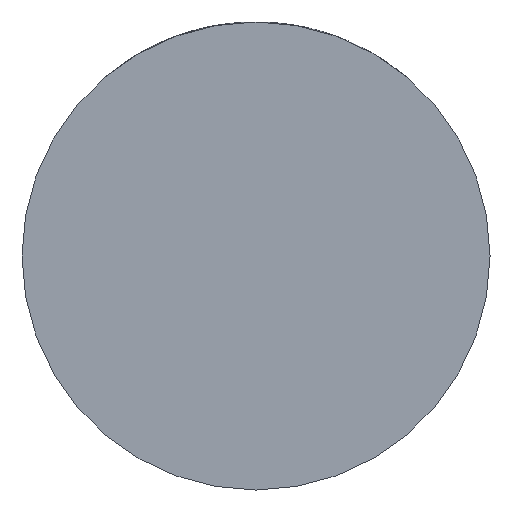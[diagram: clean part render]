
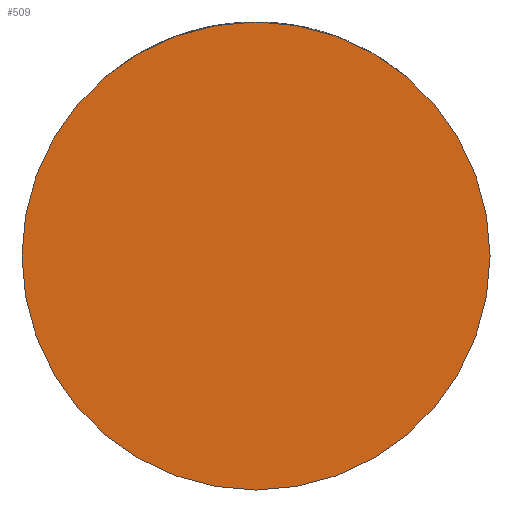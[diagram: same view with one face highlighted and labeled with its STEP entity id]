
A CAD part, front view. The second image highlights one B-rep face of the part: STEP entity #509.
In plain terms, the highlighted planar face has unit normal (0, -1, 0).
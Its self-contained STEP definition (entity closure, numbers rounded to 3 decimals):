
#69 = CARTESIAN_POINT ( 'NONE',  ( 0., -28., 0. ) ) ;
#413 = DIRECTION ( 'NONE',  ( 0., -1., 0. ) ) ;
#509 = ADVANCED_FACE ( 'NONE', ( #4465 ), #3724, .T. ) ;
#732 = CIRCLE ( 'NONE', #2243, 32. ) ;
#1179 = VERTEX_POINT ( 'NONE', #1838 ) ;
#1330 = DIRECTION ( 'NONE',  ( 1., 0., 0. ) ) ;
#1565 = CARTESIAN_POINT ( 'NONE',  ( 0., -28., 0. ) ) ;
#1625 = EDGE_CURVE ( 'NONE', #1179, #2361, #732, .T. ) ;
#1677 = ORIENTED_EDGE ( 'NONE', *, *, #1625, .T. ) ;
#1791 = DIRECTION ( 'NONE',  ( 1., 0., 0. ) ) ;
#1838 = CARTESIAN_POINT ( 'NONE',  ( -32., -28., 0. ) ) ;
#1929 = ORIENTED_EDGE ( 'NONE', *, *, #2099, .T. ) ;
#2099 = EDGE_CURVE ( 'NONE', #2361, #1179, #2823, .T. ) ;
#2243 = AXIS2_PLACEMENT_3D ( 'NONE', #1565, #2957, #2915 ) ;
#2361 = VERTEX_POINT ( 'NONE', #2725 ) ;
#2410 = CARTESIAN_POINT ( 'NONE',  ( 0., -28., 0. ) ) ;
#2725 = CARTESIAN_POINT ( 'NONE',  ( 32., -28., 0. ) ) ;
#2821 = AXIS2_PLACEMENT_3D ( 'NONE', #2410, #4417, #1330 ) ;
#2823 = CIRCLE ( 'NONE', #2897, 32. ) ;
#2897 = AXIS2_PLACEMENT_3D ( 'NONE', #69, #413, #1791 ) ;
#2915 = DIRECTION ( 'NONE',  ( 1., 0., 0. ) ) ;
#2957 = DIRECTION ( 'NONE',  ( 0., -1., 0. ) ) ;
#3724 = PLANE ( 'NONE',  #2821 ) ;
#4143 = EDGE_LOOP ( 'NONE', ( #1677, #1929 ) ) ;
#4417 = DIRECTION ( 'NONE',  ( 0., -1., 0. ) ) ;
#4465 = FACE_OUTER_BOUND ( 'NONE', #4143, .T. ) ;
